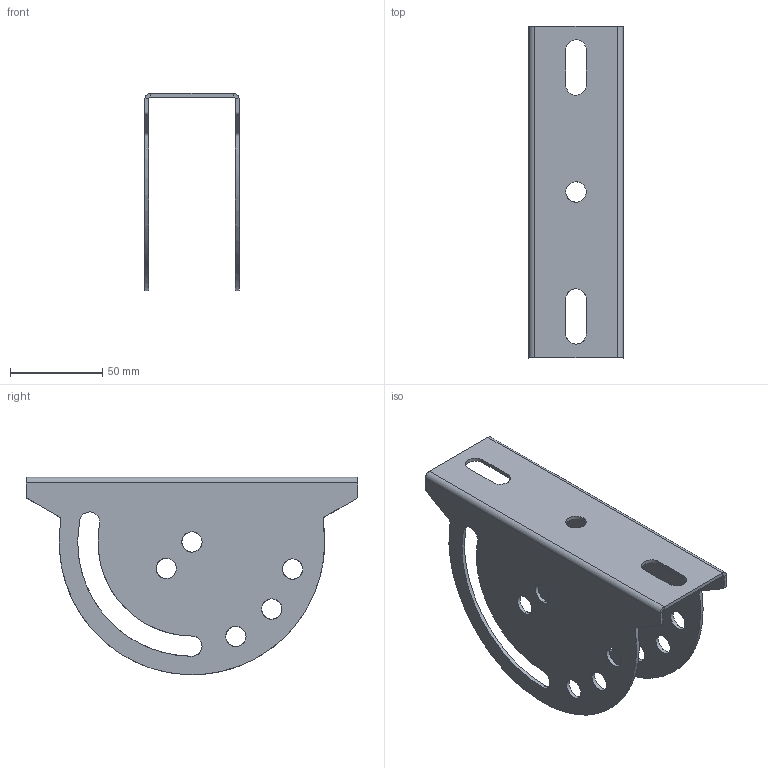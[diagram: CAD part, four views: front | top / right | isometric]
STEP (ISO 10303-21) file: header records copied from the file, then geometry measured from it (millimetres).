
FILE_DESCRIPTION(/* description */ (''),/* implementation_level */ '2;1');
FILE_NAME(/* name */ 'DZMSTPU',/* time_stamp */ '2012-11-29T22:50:07+01:00',/* author */ (''),/* organization */ (''),/* preprocessor_version */ 'ST-DEVELOPER v10',/* originating_system */ '',/* authorisation */ '');
FILE_SCHEMA (('AUTOMOTIVE_DESIGN_CC2'));
Length unit declared in the file: millimetre
Products named in the file (1): 1
Bounding box: 51 x 180 x 106.92 mm (x, y, z)
Surface area: 66764.2 mm2 (no closed solid volume)
Topology: 0 solids, 45 shells, 56 faces, 252 edges, 230 vertices
Faces by surface type: bspline 40, plane 16
Entity records: 3474 total; most frequent: CARTESIAN_POINT 1862, ORIENTED_EDGE 274, EDGE_CURVE 252, VERTEX_POINT 230, B_SPLINE_CURVE_WITH_KNOTS 106, EDGE_LOOP 86, ADVANCED_FACE 56, FACE_OUTER_BOUND 56
